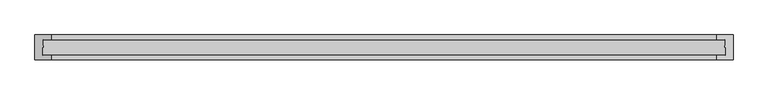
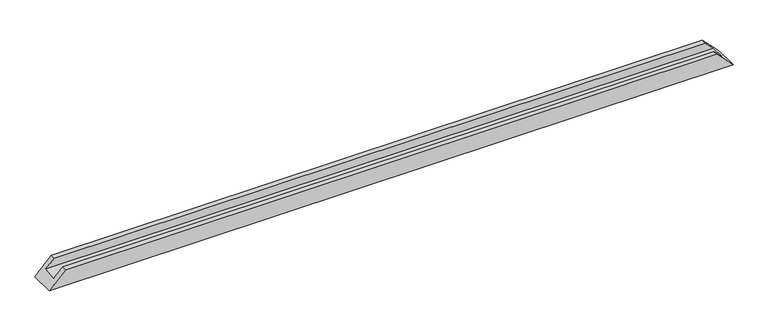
"""IFC4 building model written with IfcOpenShell, lengths in millimetres: proxy geometry, Weiku - Montante - Caixilho duplo 02.2.01.002 : Weiku - Montante - Caixilho duplo 02.2.01.002."""

import ifcopenshell
import ifcopenshell.guid

model = None  # the IFC model being written
_history = None  # IfcOwnerHistory: only IFC2X3 demands one
_inside = {}  # id of a spatial element -> (the spatial element, [elements in it])
_under = {}  # id of a project, library or spatial element -> (it, [spatial elements below it])
_declared = {}  # id of a project -> (the project, [libraries it declares])
_typed = {}  # id of a type object -> (the type object, [elements of that type])
_made_of = {}  # id of a material, layer set ... -> (it, [elements and type objects made of it])


def new_model(schema):
    """Start an empty IFC model of exactly this schema.

    Asked for "IFC4X3", IfcOpenShell would pick the latest addendum, in which some entities
    have other attributes; the version numbers below select the first issue.
    IFC2X3 requires an IfcOwnerHistory on every rooted entity: one is made here for all.
    """
    global model, _history
    if schema == "IFC4X3":
        model = ifcopenshell.file(schema_version=(4, 3, 0, 0))
    else:
        model = ifcopenshell.file(schema=schema)
    _inside.clear()
    _under.clear()
    _declared.clear()
    _typed.clear()
    _made_of.clear()
    _history = None
    if model.schema == "IFC2X3":
        org = make("IfcOrganization", Name="unknown")
        user = make(
            "IfcPersonAndOrganization",
            ThePerson=make("IfcPerson", FamilyName="unknown"),
            TheOrganization=org,
        )
        app = make(
            "IfcApplication",
            ApplicationDeveloper=org,
            Version="unknown",
            ApplicationFullName="unknown",
            ApplicationIdentifier="unknown",
        )
        _history = make(
            "IfcOwnerHistory",
            OwningUser=user,
            OwningApplication=app,
            ChangeAction="ADDED",
            CreationDate=0,
        )
    return model


def make(cls, **values):
    """One entity of the class cls with the attributes given. An attribute that is None is left unset."""
    return model.create_entity(
        cls, **{name: value for name, value in values.items() if value is not None}
    )


def rooted(cls, **values):
    """An entity with a GlobalId (a new one), such as an element, a storey or a relation."""
    return make(cls, GlobalId=ifcopenshell.guid.new(), OwnerHistory=_history, **values)


def si_unit(unit_type, name, prefix=None):
    """IfcSIUnit, for example si_unit("LENGTHUNIT", "METRE", prefix="MILLI")."""
    return make("IfcSIUnit", UnitType=unit_type, Prefix=prefix, Name=name)


def assignment(units):
    """IfcUnitAssignment: the units of a project."""
    return None if units is None else make("IfcUnitAssignment", Units=units)


def point(xyz):
    """IfcCartesianPoint."""
    return None if xyz is None else make("IfcCartesianPoint", Coordinates=xyz)


def direction(xyz):
    """IfcDirection."""
    return None if xyz is None else make("IfcDirection", DirectionRatios=xyz)


def frame(location, z_axis=None, x_axis=None):
    """IfcAxis2Placement3D, a coordinate frame: its origin and axes. An axis left out is left unset."""
    return make(
        "IfcAxis2Placement3D",
        Location=point(location),
        Axis=direction(z_axis),
        RefDirection=direction(x_axis),
    )


def origin():
    """The frame at (0, 0, 0) with its axes left unset."""
    return frame((0.0, 0.0, 0.0))


def place(relative_to, where):
    """IfcLocalPlacement: puts the frame where relative to a parent placement (None: the world)."""
    return make(
        "IfcLocalPlacement", PlacementRelTo=relative_to, RelativePlacement=where
    )


def context(
    kind, dimensions, precision=None, world=None, true_north=None, identifier=None
):
    """IfcGeometricRepresentationContext, for example the 3D "Model" context."""
    return make(
        "IfcGeometricRepresentationContext",
        ContextIdentifier=identifier,
        ContextType=kind,
        CoordinateSpaceDimension=dimensions,
        Precision=precision,
        WorldCoordinateSystem=world,
        TrueNorth=true_north,
    )


def project(units=None, contexts=None):
    """IfcProject with its units and contexts."""
    return rooted(
        "IfcProject",
        Name="project",
        RepresentationContexts=contexts,
        UnitsInContext=assignment(units),
    )


def spatial(cls, under=None, at=None, **own):
    """A site, building, storey or space (cls), placed at a placement, below another one or the project."""
    s = rooted(cls, ObjectPlacement=at, **own)
    if under is not None:
        _under.setdefault(under.id(), (under, []))[1].append(s)
    return s


def faces_of(points, faces, orient=None, outer=None):
    """IfcFace entities. A face is a list of loops; a loop is a list of indices into points, from 0.

    orient and outer hold one flag for each loop. By default every Orientation is true, the
    first loop of a face is its IfcFaceOuterBound and the others are IfcFaceBound.
    """
    made = []
    for i, loops in enumerate(faces):
        bounds = []
        for j, loop in enumerate(loops):
            is_outer = j == 0 if outer is None else outer[i][j]
            bounds.append(
                make(
                    "IfcFaceOuterBound" if is_outer else "IfcFaceBound",
                    Bound=make("IfcPolyLoop", Polygon=[points[k] for k in loop]),
                    Orientation=True if orient is None else orient[i][j],
                )
            )
        made.append(make("IfcFace", Bounds=bounds))
    return made


def faceted_brep(points, faces, orient=None, outer=None, voids=None):
    """IfcFacetedBrep: a solid bounded by flat faces; with voids (closed shells), ...WithVoids."""
    shared = [point(p) for p in points]
    hull = make("IfcClosedShell", CfsFaces=faces_of(shared, faces, orient, outer))
    if voids is None:
        return make("IfcFacetedBrep", Outer=hull)
    return make(
        "IfcFacetedBrepWithVoids",
        Outer=hull,
        Voids=[
            make(cls, CfsFaces=faces_of(shared, fs, o, b)) for cls, fs, o, b in voids
        ],
    )


def shape(context_of_items, identifier, shape_type, items):
    """IfcShapeRepresentation: the items that make up one representation, for example the "Body"."""
    return make(
        "IfcShapeRepresentation",
        ContextOfItems=context_of_items,
        RepresentationIdentifier=identifier,
        RepresentationType=shape_type,
        Items=items,
    )


def source(mapping_origin, context_of_items, identifier, shape_type, items):
    """IfcRepresentationMap: a shape defined once, which mapped items show again and again."""
    return make(
        "IfcRepresentationMap",
        MappingOrigin=mapping_origin,
        MappedRepresentation=shape(context_of_items, identifier, shape_type, items),
    )


def transform(
    local_origin,
    x_axis=None,
    y_axis=None,
    z_axis=None,
    scale=None,
    scale2=None,
    scale3=None,
    uniform=True,
):
    """IfcCartesianTransformationOperator3D, or its non-uniform kind. x_axis, y_axis, z_axis: its Axis1, 2, 3."""
    if uniform:
        return make(
            "IfcCartesianTransformationOperator3D",
            Axis1=direction(x_axis),
            Axis2=direction(y_axis),
            LocalOrigin=point(local_origin),
            Scale=scale,
            Axis3=direction(z_axis),
        )
    return make(
        "IfcCartesianTransformationOperator3DnonUniform",
        Axis1=direction(x_axis),
        Axis2=direction(y_axis),
        LocalOrigin=point(local_origin),
        Scale=scale,
        Axis3=direction(z_axis),
        Scale2=scale2,
        Scale3=scale3,
    )


def mapped(mapping_source, mapping_target):
    """IfcMappedItem: shows the shape of a source again, moved by a transform."""
    return make(
        "IfcMappedItem", MappingSource=mapping_source, MappingTarget=mapping_target
    )


def made_of(thing, what):
    """Note that an element or type object is made of a material, layer set ...; save() writes the relation."""
    if what is not None:
        _made_of.setdefault(what.id(), (what, []))[1].append(thing)
    return thing


def element(
    cls,
    number,
    at=None,
    inside=None,
    cuts=None,
    type_object=None,
    material=None,
    context=None,
    identifier="Body",
    shape_type=None,
    held_by="IfcProductDefinitionShape",
    body=None,
    shapes=None,
    **own,
):
    """One element of the class cls, such as IfcWall. Its Tag is "e" and its number.

    at: its placement. inside: the storey or other place that contains it. cuts: it is an
    opening in that element (IfcRelVoidsElement). A single representation is given by context,
    identifier, shape_type and body (its items); several are given by shapes. held_by: the class
    of the entity that holds the representations. save() writes the other relations.
    """
    e = rooted(cls, Tag="e%d" % number, ObjectPlacement=at, **own)
    if body is not None:
        shapes = [shape(context, identifier, shape_type, body)]
    if shapes is not None:
        e.Representation = make(held_by, Representations=shapes)
    if inside is not None:
        _inside.setdefault(inside.id(), (inside, []))[1].append(e)
    if cuts is not None:
        rooted(
            "IfcRelVoidsElement", RelatingBuildingElement=cuts, RelatedOpeningElement=e
        )
    if type_object is not None:
        _typed.setdefault(type_object.id(), (type_object, []))[1].append(e)
    return made_of(e, material)


def aggregate(whole, parts):
    """IfcRelAggregates: a whole, such as a stair, and the parts it consists of."""
    return rooted("IfcRelAggregates", RelatingObject=whole, RelatedObjects=parts)


def save(model, path):
    """Write the relations noted so far, then the file.

    IfcRelAggregates (storeys below a building ...), IfcRelContainedInSpatialStructure (elements
    in a storey), IfcRelDefinesByType, IfcRelAssociatesMaterial and IfcRelDeclares: one each for
    every whole, place, type object, material and project.
    """
    for whole, parts in _under.values():
        aggregate(whole, parts)
    for where, things in _inside.values():
        rooted(
            "IfcRelContainedInSpatialStructure",
            RelatedElements=things,
            RelatingStructure=where,
        )
    for kind, things in _typed.values():
        rooted("IfcRelDefinesByType", RelatedObjects=things, RelatingType=kind)
    for what, things in _made_of.values():
        rooted("IfcRelAssociatesMaterial", RelatedObjects=things, RelatingMaterial=what)
    for by, libraries in _declared.values():
        rooted("IfcRelDeclares", RelatingContext=by, RelatedDefinitions=libraries)
    model.write(path)


def generic_models_947a9153(model_context):
    return source(origin(), model_context, "Body", "Brep", [
        faceted_brep([(-1049.5, -15.0, 26.0), (1049.5, -15.0, 26.0), (1023.5, -15.0, 52.0), (-1023.5, -15.0, 52.0), (-1051.7229744, -62.0, 23.7770256), (1051.7229744, -62.0, 23.7770256), (-1023.5, -62.0, 52.0), (1023.5, -62.0, 52.0), (-1023.5, -77.0, 52.0), (1023.5, -77.0, 52.0), (1075.5, -77.0, 0.0), (-1075.5, -77.0, 0.0), (-1075.5, 0.0, 0.0), (1075.5, 0.0, 0.0), (-1023.5, 0.0, 52.0), (1023.5, 0.0, 52.0)], [[[0, 1, 2, 3]], [[4, 5, 1, 0]], [[6, 7, 5, 4]], [[8, 9, 7, 6]], [[10, 9, 8, 11]], [[11, 12, 13, 10]], [[12, 14, 15, 13]], [[3, 2, 15, 14]], [[3, 14, 12, 11, 8, 6, 4, 0]], [[1, 5, 7, 9, 10, 13, 15, 2]]]),
    ])


if __name__ == "__main__":
    model = new_model("IFC4")
    model_context = context("Model", 3, world=origin())
    ifc_project = project(units=[si_unit("LENGTHUNIT", "METRE", prefix="MILLI")], contexts=[model_context])
    site = spatial("IfcSite", under=ifc_project)
    building = spatial("IfcBuilding", under=site)
    placement = place(None, origin())
    generic_models_shape = generic_models_947a9153(model_context)
    element("IfcBuildingElementProxy", 1, Name="Weiku - Montante - Caixilho duplo 02.2.01.002 : Weiku - Montante - Caixilho duplo 02.2.01.002", ObjectType="Weiku - Montante - Caixilho duplo 02.2.01.002 : Weiku - Montante - Caixilho duplo 02.2.01.002", at=placement, inside=building, context=model_context, shape_type="MappedRepresentation", body=[
        mapped(generic_models_shape, transform((0.0, 0.0, 0.0), x_axis=(1.0, 0.0, 0.0), y_axis=(0.0, 1.0, 0.0), z_axis=(0.0, 0.0, 1.0))),
    ])
    save(model, "model.ifc")
